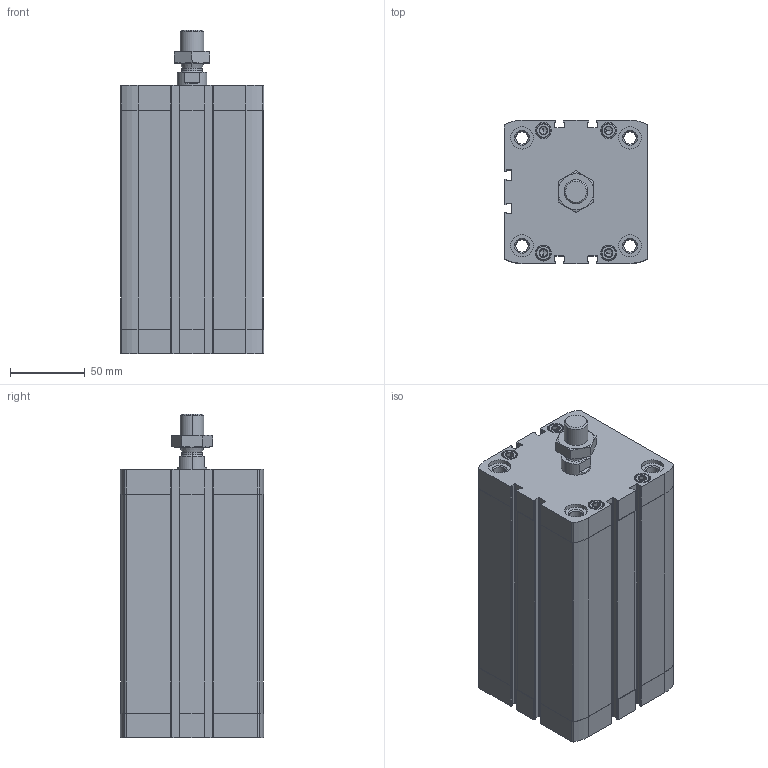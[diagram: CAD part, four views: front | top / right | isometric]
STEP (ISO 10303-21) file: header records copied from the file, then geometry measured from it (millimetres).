
FILE_DESCRIPTION (( 'STEP AP203' ), '1' );
FILE_NAME ('CCN80-125M.STEP', '2017-04-05T20:28:31', ( '' ), ( '' ), 'SwSTEP 2.0', 'SolidWorks 2016', '' );
FILE_SCHEMA (( 'CONFIG_CONTROL_DESIGN' ));
Length unit declared in the file: millimetre
Products named in the file (4): CCN-125---(Z); CCN-125_(KS); _DIN-439-B - M16x1.5(F); CCN80-125M
Assembly tree (3 placements, depth 2):
  CCN80-125M
    CCN-125---(Z)
    CCN-125_(KS)
    _DIN-439-B - M16x1.5(F)
Bounding box: 95.5 x 95.5 x 215.9 mm (x, y, z)
Volume: 949122.8 mm3; surface area: 195132.6 mm2
Topology: 3 solids, 3 shells, 507 faces, 1276 edges, 806 vertices
Faces by surface type: plane 235, cylinder 188, cone 80, bspline 4
Entity records: 16066 total; most frequent: CARTESIAN_POINT 3291, DIRECTION 2700, ORIENTED_EDGE 2520, EDGE_CURVE 1260, AXIS2_PLACEMENT_3D 1011, VERTEX_POINT 806, VECTOR 678, LINE 678
